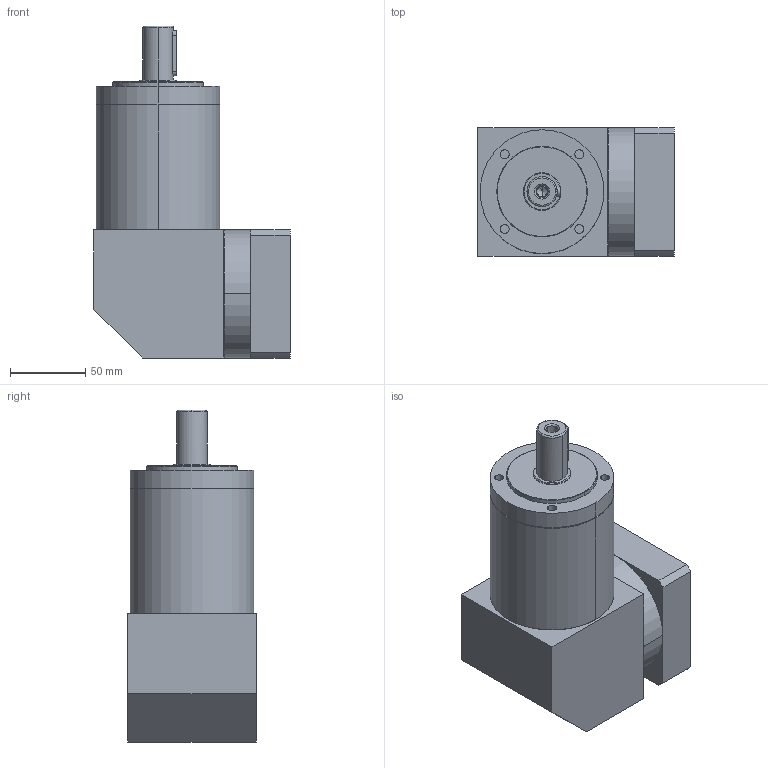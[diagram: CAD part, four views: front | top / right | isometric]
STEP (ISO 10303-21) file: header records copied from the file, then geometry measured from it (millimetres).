
FILE_DESCRIPTION((''),'2;1');
FILE_NAME('ASM0096_ASM','2017-07-19T',('Administrator'),(''),'PRO/ENGINEER BY PARAMETRIC TECHNOLOGY CORPORATION, 2013230','PRO/ENGINEER BY PARAMETRIC TECHNOLOGY CORPORATION, 2013230','');
FILE_SCHEMA(('CONFIG_CONTROL_DESIGN'));
Length unit declared in the file: millimetre
Products named in the file (12): PRT0234; PRT0235; PRT0236; PRT0237; ASM0154_ASM; ZER80-19_ASM; PRT0252; PRT0255; PRT0256; ASM0170_ASM; ASM0169_ASM; ASM0096_ASM
Assembly tree (11 placements, depth 4):
  ASM0096_ASM
    ZER80-19_ASM
      ASM0154_ASM
        PRT0234
        PRT0235
        PRT0236
        PRT0237
    PRT0252
    ASM0169_ASM
      ASM0170_ASM
        PRT0255
        PRT0256
Bounding box: 130 x 85 x 220 mm (x, y, z)
Volume: 1086985.8 mm3; surface area: 158239 mm2
Topology: 7 solids, 7 shells, 148 faces, 349 edges, 220 vertices
Faces by surface type: cylinder 68, plane 47, cone 28, torus 5
Entity records: 4688 total; most frequent: DIRECTION 866, CARTESIAN_POINT 862, ORIENTED_EDGE 678, AXIS2_PLACEMENT_3D 360, EDGE_CURVE 339, VERTEX_POINT 220, EDGE_LOOP 181, CIRCLE 181
